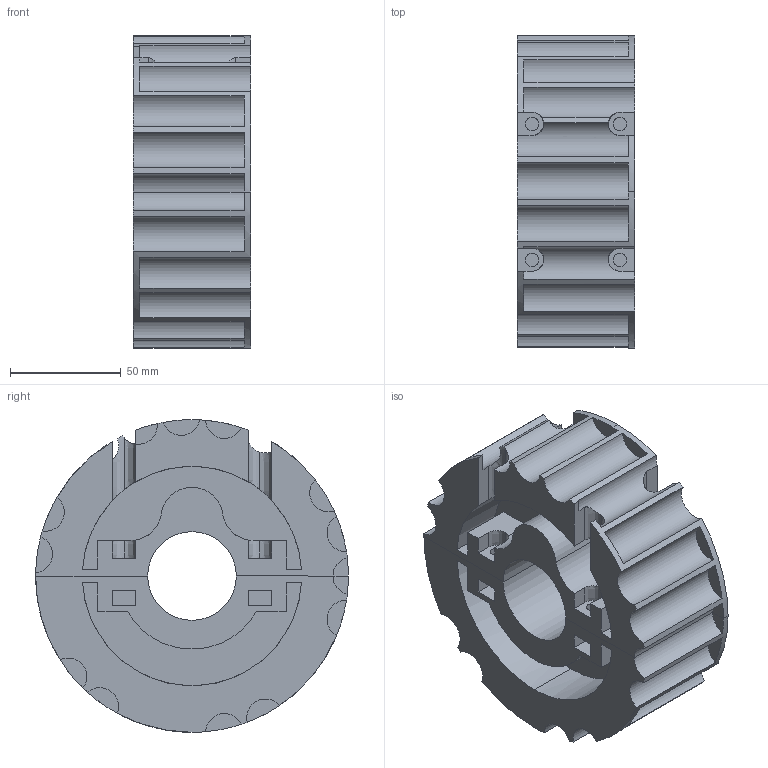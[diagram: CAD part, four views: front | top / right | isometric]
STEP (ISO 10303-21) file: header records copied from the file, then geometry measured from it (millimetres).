
FILE_DESCRIPTION(('CATIA V5 STEP Exchange','CAx-IF Rec.Pracs.--- Model Styling and Organization---1.4--- 2014-01-23'),'2;1');
FILE_NAME('C:\Users\Admin\Desktop\BUTUN-PARCALAR\alhan\312\314KI2423.stp','2022-03-23T20:01:49+00:00',('none'),('none'),'CATIA Version 5-6 Release 2017','CATIA V5 STEP AP214','none');
FILE_SCHEMA(('AUTOMOTIVE_DESIGN { 1 0 10303 214 1 1 1 1 }'));
Length unit declared in the file: millimetre
Products named in the file (1): 314KI2423
Bounding box: 53 x 141 x 141 mm (x, y, z)
Volume: 483603.3 mm3; surface area: 105734.7 mm2
Topology: 2 solids, 2 shells, 184 faces, 530 edges, 356 vertices
Faces by surface type: plane 103, cylinder 65, extrusion 16
Entity records: 5698 total; most frequent: CARTESIAN_POINT 1311, ORIENTED_EDGE 1060, DIRECTION 626, EDGE_CURVE 530, VERTEX_POINT 356, VECTOR 316, LINE 300, AXIS2_PLACEMENT_3D 253
